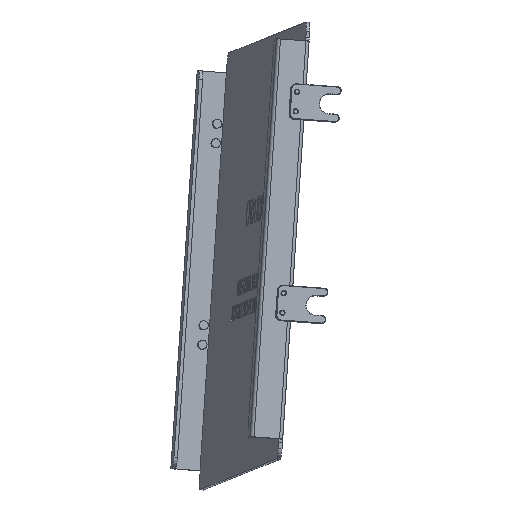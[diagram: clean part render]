
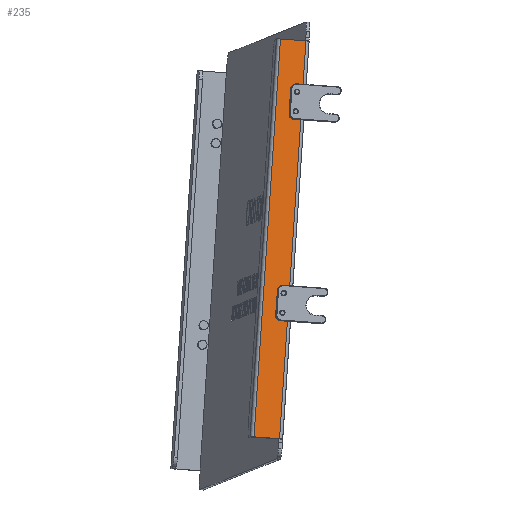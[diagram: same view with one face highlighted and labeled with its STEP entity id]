
A CAD part, front view. The second image highlights one B-rep face of the part: STEP entity #235.
In plain terms, the highlighted planar face has unit normal (0.123, -0.991, 0.049).
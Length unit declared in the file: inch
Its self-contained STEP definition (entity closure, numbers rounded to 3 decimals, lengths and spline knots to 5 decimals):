
#196=CARTESIAN_POINT('',(0.97576,-2.62207,0.08268));
#197=DIRECTION('',(-0.123,0.991,-0.049));
#198=DIRECTION('',(-0.99,-0.119,0.073));
#199=AXIS2_PLACEMENT_3D('',#196,#197,#198);
#200=PLANE('',#199);
#201=CARTESIAN_POINT('',(1.03138,-2.36118,5.17361));
#202=VERTEX_POINT('',#201);
#203=CARTESIAN_POINT('',(0.35772,-2.95081,-4.96695));
#204=VERTEX_POINT('',#203);
#205=CARTESIAN_POINT('',(1.03138,-2.36118,5.17361));
#206=DIRECTION('',(-0.066,-0.058,-0.996));
#207=VECTOR('',#206,10.18);
#208=LINE('',#205,#207);
#209=EDGE_CURVE('',#202,#204,#208,.T.);
#210=ORIENTED_EDGE('',*,*,#209,.T.);
#211=CARTESIAN_POINT('',(1.00926,-2.8722,-5.0148));
#212=VERTEX_POINT('',#211);
#213=CARTESIAN_POINT('',(1.00926,-2.8722,-5.0148));
#214=DIRECTION('',(-0.99,-0.119,0.073));
#215=VECTOR('',#214,0.658);
#216=LINE('',#213,#215);
#217=EDGE_CURVE('',#212,#204,#216,.T.);
#218=ORIENTED_EDGE('',*,*,#217,.F.);
#219=CARTESIAN_POINT('',(1.68291,-2.28256,5.12576));
#220=VERTEX_POINT('',#219);
#221=CARTESIAN_POINT('',(1.68291,-2.28256,5.12576));
#222=DIRECTION('',(-0.066,-0.058,-0.996));
#223=VECTOR('',#222,10.18);
#224=LINE('',#221,#223);
#225=EDGE_CURVE('',#220,#212,#224,.T.);
#226=ORIENTED_EDGE('',*,*,#225,.F.);
#227=CARTESIAN_POINT('',(1.03138,-2.36118,5.17361));
#228=DIRECTION('',(0.99,0.119,-0.073));
#229=VECTOR('',#228,0.658);
#230=LINE('',#227,#229);
#231=EDGE_CURVE('',#202,#220,#230,.T.);
#232=ORIENTED_EDGE('',*,*,#231,.F.);
#233=EDGE_LOOP('',(#210,#218,#226,#232));
#234=FACE_OUTER_BOUND('',#233,.T.);
#235=ADVANCED_FACE('',(#234),#200,.F.);
